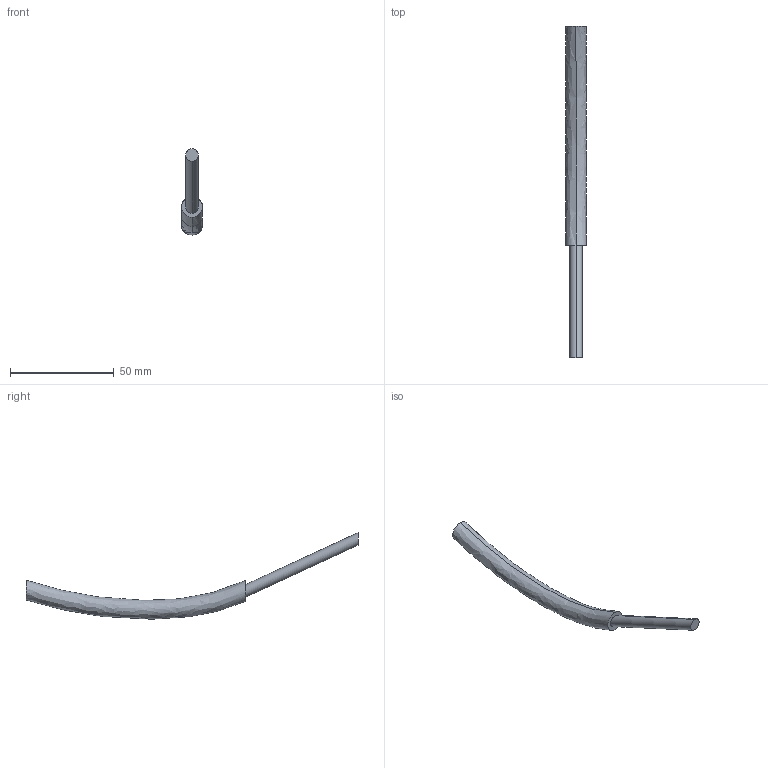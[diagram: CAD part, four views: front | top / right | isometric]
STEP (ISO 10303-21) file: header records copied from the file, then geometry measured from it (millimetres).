
FILE_DESCRIPTION (( 'STEP AP214' ), '1' );
FILE_NAME ('OnePlus_One_Swing_Stand_Base_P-Middle.STEP', '2015-03-19T12:15:01', ( '' ), ( '' ), 'SwSTEP 2.0', 'SolidWorks 2014', '' );
FILE_SCHEMA (( 'AUTOMOTIVE_DESIGN' ));
Length unit declared in the file: millimetre
Products named in the file (1): OnePlus_One_Swing_Stand_Base_P-Middle
Bounding box: 10 x 159.8 x 41.59 mm (x, y, z)
Volume: 7919.8 mm3; surface area: 5420.2 mm2
Topology: 1 solids, 1 shells, 10 faces, 18 edges, 12 vertices
Faces by surface type: bspline 6, plane 4
Entity records: 1466 total; most frequent: CARTESIAN_POINT 1267, ORIENTED_EDGE 36, DIRECTION 24, EDGE_CURVE 18, VERTEX_POINT 12, EDGE_LOOP 12, AXIS2_PLACEMENT_3D 11, ADVANCED_FACE 10
